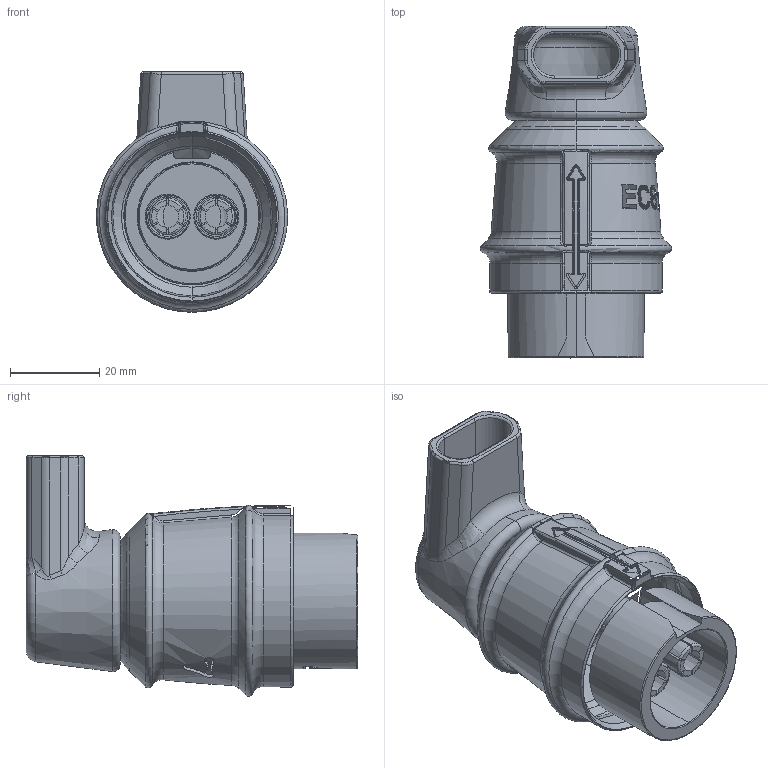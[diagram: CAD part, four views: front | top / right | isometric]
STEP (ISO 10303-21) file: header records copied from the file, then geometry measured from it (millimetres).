
FILE_DESCRIPTION((''),'2;1');
FILE_NAME('LCN-EC8X2-INLM_ASM','2025-06-27T12:49:46',('Neil'),(''),'CREO PARAMETRIC BY PTC INC, 2023134','CREO PARAMETRIC BY PTC INC, 2023134','');
FILE_SCHEMA(('AUTOMOTIVE_DESIGN { 1 0 10303 214 1 1 1 1 }'));
Length unit declared in the file: millimetre
Products named in the file (1): LCN-EC8X2-INLM_ASM
Bounding box: 42.89 x 74.42 x 53.95 mm (x, y, z)
Surface area: 18305.4 mm2 (no closed solid volume)
Topology: 0 solids, 34 shells, 207 faces, 1168 edges, 978 vertices
Faces by surface type: torus 56, bspline 45, plane 42, cylinder 35, cone 29
Entity records: 19035 total; most frequent: CARTESIAN_POINT 9711, ORIENTED_EDGE 1461, DIRECTION 1347, EDGE_CURVE 1168, VERTEX_POINT 978, AXIS2_PLACEMENT_3D 477, B_SPLINE_CURVE_WITH_KNOTS 461, VECTOR 393
